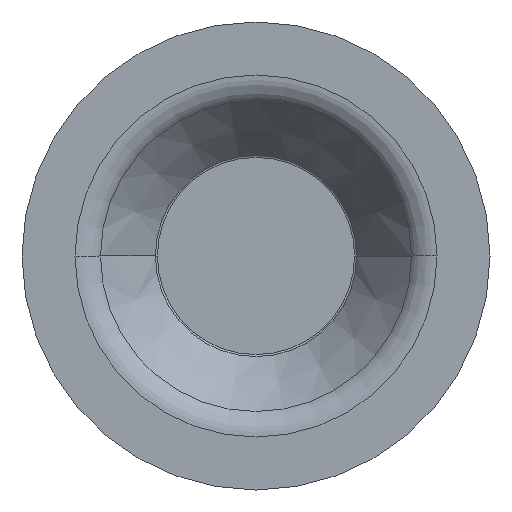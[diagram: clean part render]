
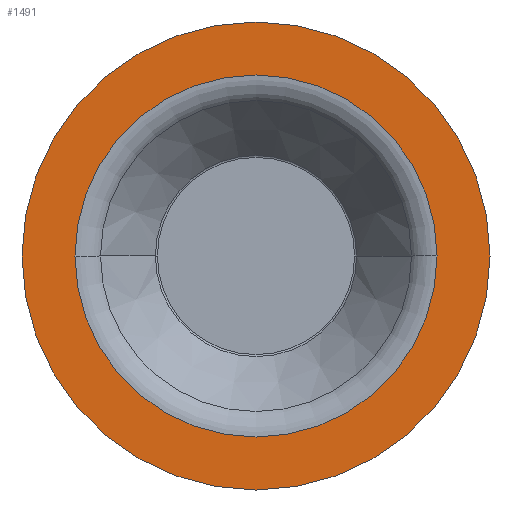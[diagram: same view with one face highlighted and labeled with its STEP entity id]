
A CAD part, front view. The second image highlights one B-rep face of the part: STEP entity #1491.
In plain terms, the highlighted planar face has unit normal (0, -1, 0).
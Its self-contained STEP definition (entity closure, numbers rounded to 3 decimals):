
#37 = AXIS2_PLACEMENT_3D ( 'NONE', #1143, #1278, #1404 ) ;
#42 = EDGE_CURVE ( 'NONE', #1109, #395, #774, .T. ) ;
#52 = VERTEX_POINT ( 'NONE', #1530 ) ;
#167 = CARTESIAN_POINT ( 'NONE',  ( 47.5, -22., 0. ) ) ;
#253 = ORIENTED_EDGE ( 'NONE', *, *, #42, .F. ) ;
#295 = PLANE ( 'NONE',  #1277 ) ;
#304 = CARTESIAN_POINT ( 'NONE',  ( 36.744, -22., 0. ) ) ;
#395 = VERTEX_POINT ( 'NONE', #304 ) ;
#397 = ORIENTED_EDGE ( 'NONE', *, *, #969, .T. ) ;
#450 = AXIS2_PLACEMENT_3D ( 'NONE', #1319, #513, #543 ) ;
#482 = EDGE_LOOP ( 'NONE', ( #1392, #397 ) ) ;
#494 = CIRCLE ( 'NONE', #1252, 47.5 ) ;
#513 = DIRECTION ( 'NONE',  ( 0., -1., 0. ) ) ;
#527 = DIRECTION ( 'NONE',  ( 0., -1., 0. ) ) ;
#543 = DIRECTION ( 'NONE',  ( 1., 0., 0. ) ) ;
#674 = DIRECTION ( 'NONE',  ( 0., -1., 0. ) ) ;
#676 = CARTESIAN_POINT ( 'NONE',  ( 0., -22., 0. ) ) ;
#695 = EDGE_CURVE ( 'NONE', #395, #1109, #1534, .T. ) ;
#701 = VERTEX_POINT ( 'NONE', #785 ) ;
#713 = DIRECTION ( 'NONE',  ( 1., 0., 0. ) ) ;
#774 = CIRCLE ( 'NONE', #37, 36.744 ) ;
#781 = CIRCLE ( 'NONE', #450, 47.5 ) ;
#785 = CARTESIAN_POINT ( 'NONE',  ( -47.5, -22., 0. ) ) ;
#811 = DIRECTION ( 'NONE',  ( 1., 0., 0. ) ) ;
#819 = CARTESIAN_POINT ( 'NONE',  ( -36.744, -22., 0. ) ) ;
#969 = EDGE_CURVE ( 'NONE', #701, #52, #781, .T. ) ;
#1046 = DIRECTION ( 'NONE',  ( -1., 0., 0. ) ) ;
#1084 = EDGE_LOOP ( 'NONE', ( #253, #1299 ) ) ;
#1109 = VERTEX_POINT ( 'NONE', #819 ) ;
#1143 = CARTESIAN_POINT ( 'NONE',  ( 0., -22., 0. ) ) ;
#1154 = EDGE_CURVE ( 'NONE', #52, #701, #494, .T. ) ;
#1156 = AXIS2_PLACEMENT_3D ( 'NONE', #1301, #527, #1046 ) ;
#1200 = DIRECTION ( 'NONE',  ( 0., -1., 0. ) ) ;
#1209 = FACE_BOUND ( 'NONE', #1084, .T. ) ;
#1252 = AXIS2_PLACEMENT_3D ( 'NONE', #676, #1200, #811 ) ;
#1277 = AXIS2_PLACEMENT_3D ( 'NONE', #167, #674, #713 ) ;
#1278 = DIRECTION ( 'NONE',  ( 0., -1., 0. ) ) ;
#1299 = ORIENTED_EDGE ( 'NONE', *, *, #695, .F. ) ;
#1301 = CARTESIAN_POINT ( 'NONE',  ( 0., -22., 0. ) ) ;
#1319 = CARTESIAN_POINT ( 'NONE',  ( 0., -22., 0. ) ) ;
#1392 = ORIENTED_EDGE ( 'NONE', *, *, #1154, .T. ) ;
#1404 = DIRECTION ( 'NONE',  ( -1., 0., 0. ) ) ;
#1471 = FACE_OUTER_BOUND ( 'NONE', #482, .T. ) ;
#1491 = ADVANCED_FACE ( 'NONE', ( #1209, #1471 ), #295, .T. ) ;
#1530 = CARTESIAN_POINT ( 'NONE',  ( 47.5, -22., 0. ) ) ;
#1534 = CIRCLE ( 'NONE', #1156, 36.744 ) ;
